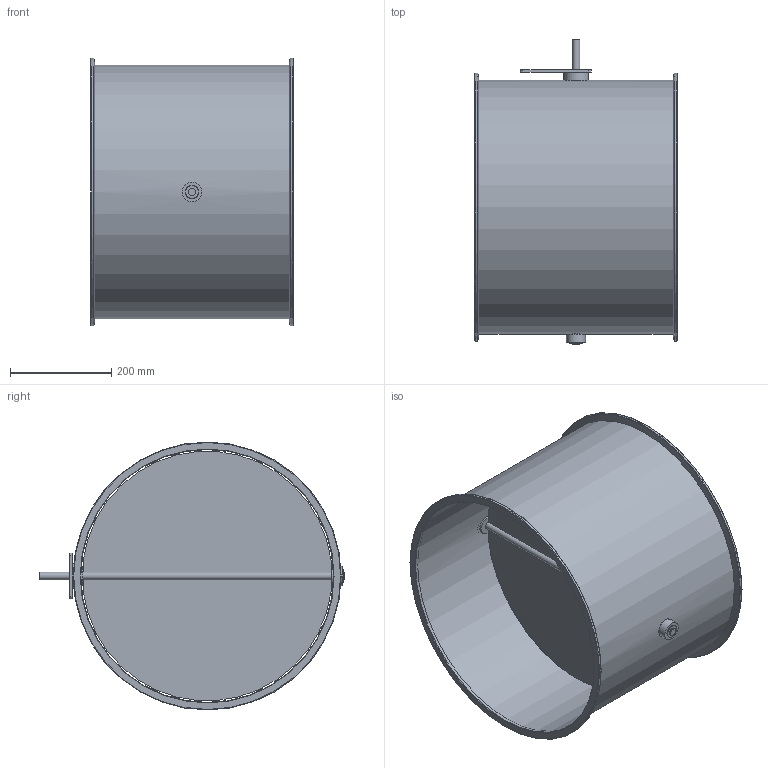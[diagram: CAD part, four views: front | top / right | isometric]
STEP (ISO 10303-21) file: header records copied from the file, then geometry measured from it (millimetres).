
FILE_DESCRIPTION(/* description */ (''),/* implementation_level */ '2;1');
FILE_NAME(/* name */ 'EA110-80B__500_L400_Belimo_Typ_NM.stp',/* time_stamp */ '2017-12-07T11:12:23+01:00',/* author */ (''),/* organization */ (''),/* preprocessor_version */ 'ST-DEVELOPER v11',/* originating_system */ 'SIEMENS UGS NX 6.0',/* authorisation */ '');
FILE_SCHEMA (('CONFIG_CONTROL_DESIGN'));
Length unit declared in the file: millimetre
Products named in the file (1): gars5544kxde
Bounding box: 400 x 604 x 530 mm (x, y, z)
Volume: 1391980.3 mm3; surface area: 1804476.4 mm2
Topology: 8 solids, 8 shells, 62 faces, 132 edges, 88 vertices
Faces by surface type: cylinder 30, plane 24, torus 6, cone 2
Full cylindrical faces by diameter (mm): 6.1 x6, 15 x3, 25 x3, 25.85 x2, 26 x2, 38 x3, 49 x1, 500 x1, 502 x1, 530 x2
Entity records: 1636 total; most frequent: CARTESIAN_POINT 299, DIRECTION 274, ORIENTED_EDGE 180, AXIS2_PLACEMENT_3D 125, EDGE_LOOP 124, FACE_BOUND 110, EDGE_CURVE 90, VERTEX_POINT 78
